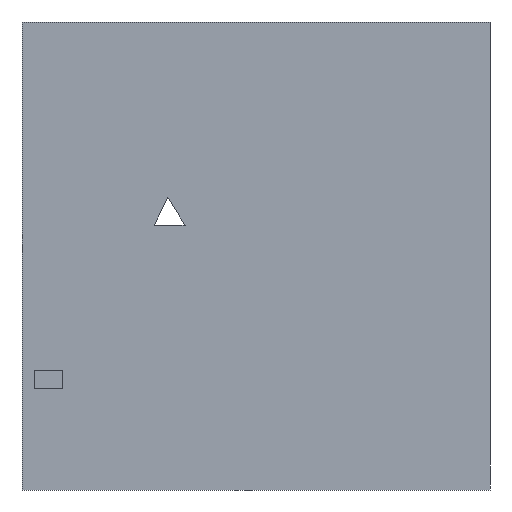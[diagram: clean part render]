
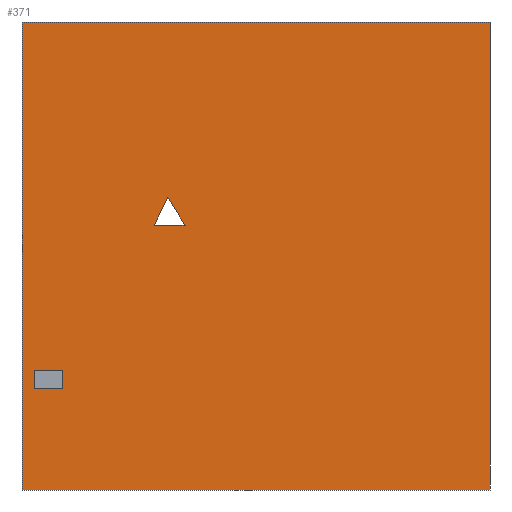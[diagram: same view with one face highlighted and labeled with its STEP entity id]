
A CAD part, front view. The second image highlights one B-rep face of the part: STEP entity #371.
In plain terms, the highlighted planar face has unit normal (0, -1, 0).
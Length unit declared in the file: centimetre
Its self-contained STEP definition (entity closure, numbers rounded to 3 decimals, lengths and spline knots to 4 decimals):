
#1 = DIRECTION ( 'NONE',  ( 0., 0., 1. ) ) ;
#3 = VECTOR ( 'NONE', #458, 100. ) ;
#6 = EDGE_CURVE ( 'NONE', #161, #362, #629, .T. ) ;
#33 = LINE ( 'NONE', #195, #175 ) ;
#37 = CARTESIAN_POINT ( 'NONE',  ( 0., 0., 1000. ) ) ;
#41 = ORIENTED_EDGE ( 'NONE', *, *, #530, .T. ) ;
#49 = DIRECTION ( 'NONE',  ( 0., 0., -1. ) ) ;
#62 = ORIENTED_EDGE ( 'NONE', *, *, #164, .F. ) ;
#79 = VECTOR ( 'NONE', #145, 100. ) ;
#88 = CARTESIAN_POINT ( 'NONE',  ( 348.489, 0., 565.7395 ) ) ;
#94 = DIRECTION ( 'NONE',  ( 0., 0., -1. ) ) ;
#99 = CARTESIAN_POINT ( 'NONE',  ( 1000., 0., 0. ) ) ;
#106 = EDGE_LOOP ( 'NONE', ( #614, #62, #173 ) ) ;
#112 = FACE_OUTER_BOUND ( 'NONE', #604, .T. ) ;
#125 = LINE ( 'NONE', #174, #553 ) ;
#128 = VECTOR ( 'NONE', #184, 100. ) ;
#140 = EDGE_CURVE ( 'NONE', #220, #161, #291, .T. ) ;
#141 = LINE ( 'NONE', #88, #449 ) ;
#145 = DIRECTION ( 'NONE',  ( 1., 0., 0. ) ) ;
#161 = VERTEX_POINT ( 'NONE', #350 ) ;
#164 = EDGE_CURVE ( 'NONE', #257, #647, #141, .T. ) ;
#169 = PLANE ( 'NONE',  #534 ) ;
#171 = VERTEX_POINT ( 'NONE', #244 ) ;
#173 = ORIENTED_EDGE ( 'NONE', *, *, #177, .F. ) ;
#174 = CARTESIAN_POINT ( 'NONE',  ( 0., 0., 1000. ) ) ;
#175 = VECTOR ( 'NONE', #452, 100. ) ;
#177 = EDGE_CURVE ( 'NONE', #171, #257, #442, .T. ) ;
#184 = DIRECTION ( 'NONE',  ( 0., 0., 1. ) ) ;
#185 = CARTESIAN_POINT ( 'NONE',  ( 26.2158, 0., 217.3156 ) ) ;
#195 = CARTESIAN_POINT ( 'NONE',  ( 0., 0., 1000. ) ) ;
#198 = DIRECTION ( 'NONE',  ( 1., 0., 0. ) ) ;
#199 = CARTESIAN_POINT ( 'NONE',  ( 0., 0., 0. ) ) ;
#201 = VECTOR ( 'NONE', #49, 100. ) ;
#208 = VERTEX_POINT ( 'NONE', #37 ) ;
#220 = VERTEX_POINT ( 'NONE', #246 ) ;
#225 = EDGE_LOOP ( 'NONE', ( #475, #487, #325, #575 ) ) ;
#229 = VERTEX_POINT ( 'NONE', #253 ) ;
#232 = ORIENTED_EDGE ( 'NONE', *, *, #331, .F. ) ;
#241 = DIRECTION ( 'NONE',  ( -0.527, 0., 0.85 ) ) ;
#243 = CARTESIAN_POINT ( 'NONE',  ( 86.0813, 0., 256.2043 ) ) ;
#244 = CARTESIAN_POINT ( 'NONE',  ( 282.3135, 0., 565.7395 ) ) ;
#246 = CARTESIAN_POINT ( 'NONE',  ( 26.2158, 0., 217.3156 ) ) ;
#250 = VECTOR ( 'NONE', #516, 100. ) ;
#253 = CARTESIAN_POINT ( 'NONE',  ( 1000., 0., 1000. ) ) ;
#254 = ORIENTED_EDGE ( 'NONE', *, *, #630, .T. ) ;
#257 = VERTEX_POINT ( 'NONE', #591 ) ;
#259 = EDGE_CURVE ( 'NONE', #411, #220, #396, .T. ) ;
#261 = VERTEX_POINT ( 'NONE', #99 ) ;
#268 = CARTESIAN_POINT ( 'NONE',  ( 0., 0., 1000. ) ) ;
#281 = EDGE_CURVE ( 'NONE', #208, #229, #33, .T. ) ;
#291 = LINE ( 'NONE', #185, #79 ) ;
#297 = LINE ( 'NONE', #306, #636 ) ;
#306 = CARTESIAN_POINT ( 'NONE',  ( 1000., 0., 1000. ) ) ;
#316 = CARTESIAN_POINT ( 'NONE',  ( 26.2158, 0., 256.2043 ) ) ;
#325 = ORIENTED_EDGE ( 'NONE', *, *, #370, .F. ) ;
#331 = EDGE_CURVE ( 'NONE', #229, #261, #297, .T. ) ;
#337 = CARTESIAN_POINT ( 'NONE',  ( 282.3135, 0., 565.7395 ) ) ;
#338 = CARTESIAN_POINT ( 'NONE',  ( 0., 0., 0. ) ) ;
#350 = CARTESIAN_POINT ( 'NONE',  ( 86.0813, 0., 217.3156 ) ) ;
#362 = VERTEX_POINT ( 'NONE', #243 ) ;
#368 = CARTESIAN_POINT ( 'NONE',  ( 26.2158, 0., 256.2043 ) ) ;
#370 = EDGE_CURVE ( 'NONE', #362, #411, #564, .T. ) ;
#371 = ADVANCED_FACE ( 'NONE', ( #510, #465, #112 ), #169, .F. ) ;
#372 = CARTESIAN_POINT ( 'NONE',  ( 311.5702, 0., 625.2609 ) ) ;
#392 = DIRECTION ( 'NONE',  ( 0., 0., -1. ) ) ;
#396 = LINE ( 'NONE', #600, #201 ) ;
#400 = EDGE_CURVE ( 'NONE', #647, #171, #608, .T. ) ;
#411 = VERTEX_POINT ( 'NONE', #368 ) ;
#442 = LINE ( 'NONE', #337, #536 ) ;
#449 = VECTOR ( 'NONE', #241, 100. ) ;
#451 = CARTESIAN_POINT ( 'NONE',  ( 311.5702, 0., 625.2609 ) ) ;
#452 = DIRECTION ( 'NONE',  ( 1., 0., 0. ) ) ;
#458 = DIRECTION ( 'NONE',  ( -1., 0., 0. ) ) ;
#465 = FACE_BOUND ( 'NONE', #225, .T. ) ;
#468 = ORIENTED_EDGE ( 'NONE', *, *, #281, .F. ) ;
#475 = ORIENTED_EDGE ( 'NONE', *, *, #140, .F. ) ;
#483 = LINE ( 'NONE', #338, #622 ) ;
#487 = ORIENTED_EDGE ( 'NONE', *, *, #259, .F. ) ;
#510 = FACE_BOUND ( 'NONE', #106, .T. ) ;
#516 = DIRECTION ( 'NONE',  ( -0.441, 0., -0.897 ) ) ;
#530 = EDGE_CURVE ( 'NONE', #649, #261, #483, .T. ) ;
#534 = AXIS2_PLACEMENT_3D ( 'NONE', #268, #613, #1 ) ;
#535 = DIRECTION ( 'NONE',  ( 1., 0., 0. ) ) ;
#536 = VECTOR ( 'NONE', #198, 100. ) ;
#553 = VECTOR ( 'NONE', #392, 100. ) ;
#564 = LINE ( 'NONE', #316, #3 ) ;
#575 = ORIENTED_EDGE ( 'NONE', *, *, #6, .F. ) ;
#584 = CARTESIAN_POINT ( 'NONE',  ( 86.0813, 0., 217.3156 ) ) ;
#591 = CARTESIAN_POINT ( 'NONE',  ( 348.489, 0., 565.7395 ) ) ;
#600 = CARTESIAN_POINT ( 'NONE',  ( 26.2158, 0., 217.3156 ) ) ;
#604 = EDGE_LOOP ( 'NONE', ( #41, #232, #468, #254 ) ) ;
#608 = LINE ( 'NONE', #372, #250 ) ;
#613 = DIRECTION ( 'NONE',  ( 0., 1., 0. ) ) ;
#614 = ORIENTED_EDGE ( 'NONE', *, *, #400, .F. ) ;
#622 = VECTOR ( 'NONE', #535, 100. ) ;
#629 = LINE ( 'NONE', #584, #128 ) ;
#630 = EDGE_CURVE ( 'NONE', #208, #649, #125, .T. ) ;
#636 = VECTOR ( 'NONE', #94, 100. ) ;
#647 = VERTEX_POINT ( 'NONE', #451 ) ;
#649 = VERTEX_POINT ( 'NONE', #199 ) ;
